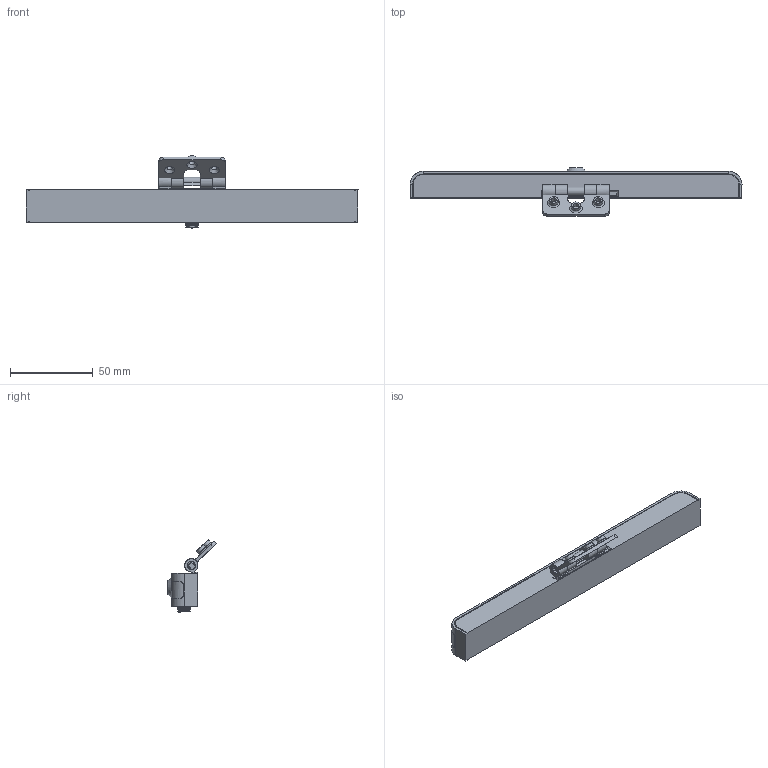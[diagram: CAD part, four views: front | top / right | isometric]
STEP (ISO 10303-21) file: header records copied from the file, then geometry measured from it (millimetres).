
FILE_DESCRIPTION(/* description */ (''),/* implementation_level */ '2;1');
FILE_NAME(/* name */ '5995340_space light.stp',/* time_stamp */ '2019-06-11T10:49:18+02:00',/* author */ (''),/* organization */ (''),/* preprocessor_version */ 'ST-DEVELOPER v16.7',/* originating_system */ 'SIEMENS PLM Software NX 12.0',/* authorisation */ '');
FILE_SCHEMA (('AUTOMOTIVE_DESIGN { 1 0 10303 214 3 1 1 1 }'));
Length unit declared in the file: millimetre
Products named in the file (1): p.sc21B4B528x3d8
Bounding box: 200 x 29.4 x 43.84 mm (x, y, z)
Volume: 65730.8 mm3; surface area: 20025.2 mm2
Topology: 1 solids, 1 shells, 315 faces, 893 edges, 585 vertices
Faces by surface type: plane 195, cylinder 98, cone 12, torus 5, bspline 4, extrusion 1
Full cylindrical faces by diameter (mm): 1.2 x1, 3.2 x3, 5 x1, 5.5 x3, 11.9 x1, 12.7 x1
Entity records: 11226 total; most frequent: CARTESIAN_POINT 3133, ORIENTED_EDGE 1730, DIRECTION 1597, EDGE_CURVE 865, VERTEX_POINT 578, VECTOR 549, LINE 548, AXIS2_PLACEMENT_3D 524
